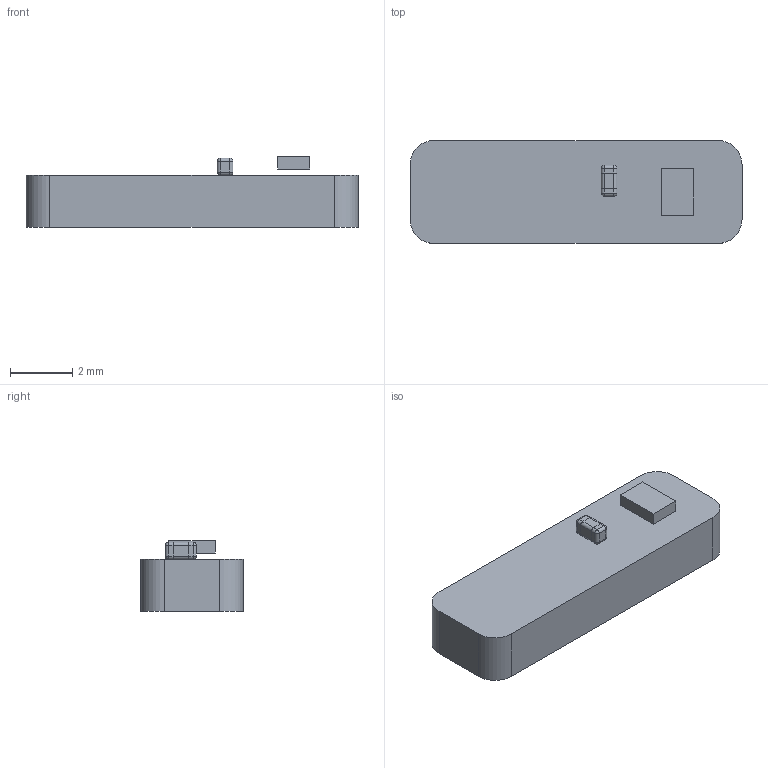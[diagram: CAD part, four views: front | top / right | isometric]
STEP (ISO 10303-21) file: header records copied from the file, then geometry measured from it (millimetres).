
FILE_DESCRIPTION(('Open CASCADE Model'),'2;1');
FILE_NAME('Open CASCADE Shape Model','2023-12-08T16:11:46',('Author'),( 'Open CASCADE'),'Open CASCADE STEP processor 7.5','Open CASCADE 7.5' ,'Unknown');
FILE_SCHEMA(('AUTOMOTIVE_DESIGN { 1 0 10303 214 1 1 1 1 }'));
Length unit declared in the file: millimetre
Products named in the file (8): PCB; Board; Open CASCADE STEP translator 7.5 1.1.1; C1; CAPC1005X55; U1; 6723497504; Extruded
Assembly tree (7 placements, depth 4):
  PCB
    Board
      Open CASCADE STEP translator 7.5 1.1.1
    C1
      CAPC1005X55
    U1
      6723497504
        Extruded
Bounding box: 10.67 x 3.3 x 2.28 mm (x, y, z)
Volume: 59.1 mm3; surface area: 122.5 mm2
Topology: 5 solids, 5 shells, 62 faces, 140 edges, 80 vertices
Faces by surface type: plane 30, cylinder 24, sphere 8
Entity records: 2148 total; most frequent: DIRECTION 320, CARTESIAN_POINT 282, ORIENTED_EDGE 264, EDGE_CURVE 132, AXIS2_PLACEMENT_3D 118, LINE 84, VECTOR 84, VERTEX_POINT 80
